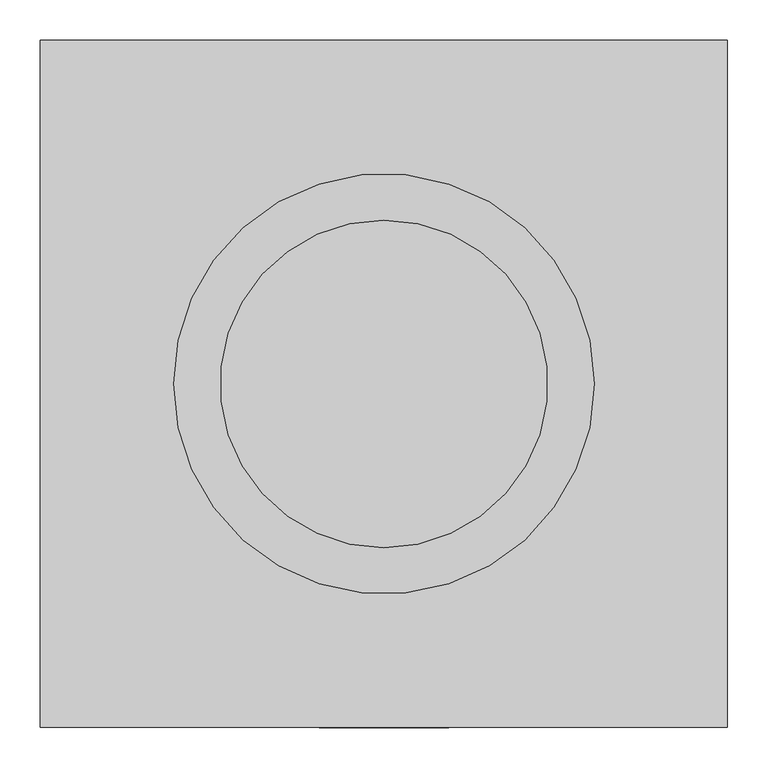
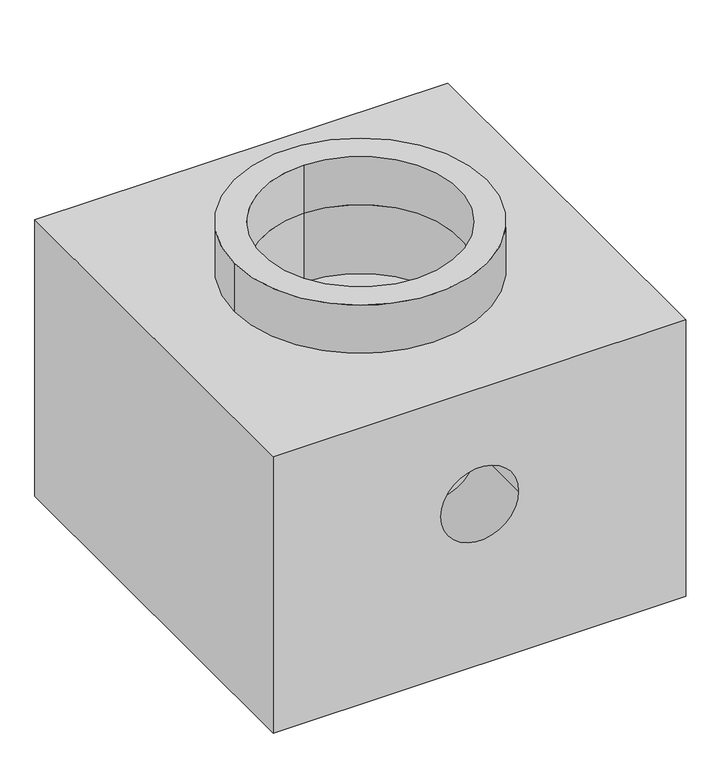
"""IFC4 building model written with IfcOpenShell, lengths in millimetres: valve geometry, Pipelife - Stormbox - Studzienka kontrolna : 160-200-250-315."""

import ifcopenshell
import ifcopenshell.guid

model = None  # the IFC model being written
_history = None  # IfcOwnerHistory: only IFC2X3 demands one
_inside = {}  # id of a spatial element -> (the spatial element, [elements in it])
_under = {}  # id of a project, library or spatial element -> (it, [spatial elements below it])
_declared = {}  # id of a project -> (the project, [libraries it declares])
_typed = {}  # id of a type object -> (the type object, [elements of that type])
_made_of = {}  # id of a material, layer set ... -> (it, [elements and type objects made of it])


def new_model(schema):
    """Start an empty IFC model of exactly this schema.

    Asked for "IFC4X3", IfcOpenShell would pick the latest addendum, in which some entities
    have other attributes; the version numbers below select the first issue.
    IFC2X3 requires an IfcOwnerHistory on every rooted entity: one is made here for all.
    """
    global model, _history
    if schema == "IFC4X3":
        model = ifcopenshell.file(schema_version=(4, 3, 0, 0))
    else:
        model = ifcopenshell.file(schema=schema)
    _inside.clear()
    _under.clear()
    _declared.clear()
    _typed.clear()
    _made_of.clear()
    _history = None
    if model.schema == "IFC2X3":
        org = make("IfcOrganization", Name="unknown")
        user = make(
            "IfcPersonAndOrganization",
            ThePerson=make("IfcPerson", FamilyName="unknown"),
            TheOrganization=org,
        )
        app = make(
            "IfcApplication",
            ApplicationDeveloper=org,
            Version="unknown",
            ApplicationFullName="unknown",
            ApplicationIdentifier="unknown",
        )
        _history = make(
            "IfcOwnerHistory",
            OwningUser=user,
            OwningApplication=app,
            ChangeAction="ADDED",
            CreationDate=0,
        )
    return model


def make(cls, **values):
    """One entity of the class cls with the attributes given. An attribute that is None is left unset."""
    return model.create_entity(
        cls, **{name: value for name, value in values.items() if value is not None}
    )


def rooted(cls, **values):
    """An entity with a GlobalId (a new one), such as an element, a storey or a relation."""
    return make(cls, GlobalId=ifcopenshell.guid.new(), OwnerHistory=_history, **values)


def si_unit(unit_type, name, prefix=None):
    """IfcSIUnit, for example si_unit("LENGTHUNIT", "METRE", prefix="MILLI")."""
    return make("IfcSIUnit", UnitType=unit_type, Prefix=prefix, Name=name)


def assignment(units):
    """IfcUnitAssignment: the units of a project."""
    return None if units is None else make("IfcUnitAssignment", Units=units)


def point(xyz):
    """IfcCartesianPoint."""
    return None if xyz is None else make("IfcCartesianPoint", Coordinates=xyz)


def direction(xyz):
    """IfcDirection."""
    return None if xyz is None else make("IfcDirection", DirectionRatios=xyz)


def frame(location, z_axis=None, x_axis=None):
    """IfcAxis2Placement3D, a coordinate frame: its origin and axes. An axis left out is left unset."""
    return make(
        "IfcAxis2Placement3D",
        Location=point(location),
        Axis=direction(z_axis),
        RefDirection=direction(x_axis),
    )


def frame_2d(location, x_axis=None):
    """IfcAxis2Placement2D, a coordinate frame in the plane: its origin and x axis."""
    return make(
        "IfcAxis2Placement2D", Location=point(location), RefDirection=direction(x_axis)
    )


def origin():
    """The frame at (0, 0, 0) with its axes left unset."""
    return frame((0.0, 0.0, 0.0))


def origin_2d():
    """The frame at (0, 0) in the plane with its x axis left unset."""
    return frame_2d((0.0, 0.0))


def place(relative_to, where):
    """IfcLocalPlacement: puts the frame where relative to a parent placement (None: the world)."""
    return make(
        "IfcLocalPlacement", PlacementRelTo=relative_to, RelativePlacement=where
    )


def context(
    kind, dimensions, precision=None, world=None, true_north=None, identifier=None
):
    """IfcGeometricRepresentationContext, for example the 3D "Model" context."""
    return make(
        "IfcGeometricRepresentationContext",
        ContextIdentifier=identifier,
        ContextType=kind,
        CoordinateSpaceDimension=dimensions,
        Precision=precision,
        WorldCoordinateSystem=world,
        TrueNorth=true_north,
    )


def project(units=None, contexts=None):
    """IfcProject with its units and contexts."""
    return rooted(
        "IfcProject",
        Name="project",
        RepresentationContexts=contexts,
        UnitsInContext=assignment(units),
    )


def spatial(cls, under=None, at=None, **own):
    """A site, building, storey or space (cls), placed at a placement, below another one or the project."""
    s = rooted(cls, ObjectPlacement=at, **own)
    if under is not None:
        _under.setdefault(under.id(), (under, []))[1].append(s)
    return s


def polyline(points):
    """IfcPolyline through the points."""
    return make("IfcPolyline", Points=[point(p) for p in points])


def circle_curve(where, radius):
    """IfcCircle in the frame where."""
    return make("IfcCircle", Position=where, Radius=radius)


def trimmed(basis, trim1, trim2, sense, master):
    """IfcTrimmedCurve: the piece of a basis curve between two trims."""
    return make(
        "IfcTrimmedCurve",
        BasisCurve=basis,
        Trim1=trim1,
        Trim2=trim2,
        SenseAgreement=sense,
        MasterRepresentation=master,
    )


def segment(curve, same_sense, transition):
    """IfcCompositeCurveSegment."""
    return make(
        "IfcCompositeCurveSegment",
        Transition=transition,
        SameSense=same_sense,
        ParentCurve=curve,
    )


def composite_curve(segments, self_intersect=None):
    """IfcCompositeCurve: segments joined end to end."""
    return make("IfcCompositeCurve", Segments=segments, SelfIntersect=self_intersect)


def outline(outer, holes=None, kind="AREA"):
    """IfcArbitraryClosedProfileDef: a profile drawn as a closed curve; with holes, ...WithVoids."""
    if holes is None:
        return make("IfcArbitraryClosedProfileDef", ProfileType=kind, OuterCurve=outer)
    return make(
        "IfcArbitraryProfileDefWithVoids",
        ProfileType=kind,
        OuterCurve=outer,
        InnerCurves=holes,
    )


def extrude(swept, where, along, depth):
    """IfcExtrudedAreaSolid: the profile swept, set in the frame where, extruded along a direction by depth."""
    return make(
        "IfcExtrudedAreaSolid",
        SweptArea=swept,
        Position=where,
        ExtrudedDirection=direction(along),
        Depth=depth,
    )


def shape(context_of_items, identifier, shape_type, items):
    """IfcShapeRepresentation: the items that make up one representation, for example the "Body"."""
    return make(
        "IfcShapeRepresentation",
        ContextOfItems=context_of_items,
        RepresentationIdentifier=identifier,
        RepresentationType=shape_type,
        Items=items,
    )


def source(mapping_origin, context_of_items, identifier, shape_type, items):
    """IfcRepresentationMap: a shape defined once, which mapped items show again and again."""
    return make(
        "IfcRepresentationMap",
        MappingOrigin=mapping_origin,
        MappedRepresentation=shape(context_of_items, identifier, shape_type, items),
    )


def transform(
    local_origin,
    x_axis=None,
    y_axis=None,
    z_axis=None,
    scale=None,
    scale2=None,
    scale3=None,
    uniform=True,
):
    """IfcCartesianTransformationOperator3D, or its non-uniform kind. x_axis, y_axis, z_axis: its Axis1, 2, 3."""
    if uniform:
        return make(
            "IfcCartesianTransformationOperator3D",
            Axis1=direction(x_axis),
            Axis2=direction(y_axis),
            LocalOrigin=point(local_origin),
            Scale=scale,
            Axis3=direction(z_axis),
        )
    return make(
        "IfcCartesianTransformationOperator3DnonUniform",
        Axis1=direction(x_axis),
        Axis2=direction(y_axis),
        LocalOrigin=point(local_origin),
        Scale=scale,
        Axis3=direction(z_axis),
        Scale2=scale2,
        Scale3=scale3,
    )


def mapped(mapping_source, mapping_target):
    """IfcMappedItem: shows the shape of a source again, moved by a transform."""
    return make(
        "IfcMappedItem", MappingSource=mapping_source, MappingTarget=mapping_target
    )


def made_of(thing, what):
    """Note that an element or type object is made of a material, layer set ...; save() writes the relation."""
    if what is not None:
        _made_of.setdefault(what.id(), (what, []))[1].append(thing)
    return thing


def element(
    cls,
    number,
    at=None,
    inside=None,
    cuts=None,
    type_object=None,
    material=None,
    context=None,
    identifier="Body",
    shape_type=None,
    held_by="IfcProductDefinitionShape",
    body=None,
    shapes=None,
    **own,
):
    """One element of the class cls, such as IfcWall. Its Tag is "e" and its number.

    at: its placement. inside: the storey or other place that contains it. cuts: it is an
    opening in that element (IfcRelVoidsElement). A single representation is given by context,
    identifier, shape_type and body (its items); several are given by shapes. held_by: the class
    of the entity that holds the representations. save() writes the other relations.
    """
    e = rooted(cls, Tag="e%d" % number, ObjectPlacement=at, **own)
    if body is not None:
        shapes = [shape(context, identifier, shape_type, body)]
    if shapes is not None:
        e.Representation = make(held_by, Representations=shapes)
    if inside is not None:
        _inside.setdefault(inside.id(), (inside, []))[1].append(e)
    if cuts is not None:
        rooted(
            "IfcRelVoidsElement", RelatingBuildingElement=cuts, RelatedOpeningElement=e
        )
    if type_object is not None:
        _typed.setdefault(type_object.id(), (type_object, []))[1].append(e)
    return made_of(e, material)


def aggregate(whole, parts):
    """IfcRelAggregates: a whole, such as a stair, and the parts it consists of."""
    return rooted("IfcRelAggregates", RelatingObject=whole, RelatedObjects=parts)


def save(model, path):
    """Write the relations noted so far, then the file.

    IfcRelAggregates (storeys below a building ...), IfcRelContainedInSpatialStructure (elements
    in a storey), IfcRelDefinesByType, IfcRelAssociatesMaterial and IfcRelDeclares: one each for
    every whole, place, type object, material and project.
    """
    for whole, parts in _under.values():
        aggregate(whole, parts)
    for where, things in _inside.values():
        rooted(
            "IfcRelContainedInSpatialStructure",
            RelatedElements=things,
            RelatingStructure=where,
        )
    for kind, things in _typed.values():
        rooted("IfcRelDefinesByType", RelatedObjects=things, RelatingType=kind)
    for what, things in _made_of.values():
        rooted("IfcRelAssociatesMaterial", RelatedObjects=things, RelatingMaterial=what)
    for by, libraries in _declared.values():
        rooted("IfcRelDeclares", RelatingContext=by, RelatedDefinitions=libraries)
    model.write(path)


def plane_surface(at):
    """IfcPlane: the flat surface through the origin of the frame at, square to its z axis."""
    return make("IfcPlane", Position=at)


def revolved_surface(curve, axis_point, axis_direction):
    """IfcSurfaceOfRevolution: the curve turned about the line through axis_point along axis_direction."""
    return make(
        "IfcSurfaceOfRevolution",
        SweptCurve=make("IfcArbitraryOpenProfileDef", ProfileType="CURVE", Curve=curve),
        AxisPosition=make("IfcAxis1Placement", Location=point(axis_point), Axis=direction(axis_direction)),
    )


def advanced_brep(points, edges, surfaces, faces):
    """IfcAdvancedBrep: a solid bounded by faces that lie on surfaces and meet in shared edges.

    An edge is (start, end): straight between two places in points (the first is 0);
    or (start, end, curve); or (start, end, curve, False) where it runs against its curve.
    A face is (place in surfaces, loops), or (place, loops, False) where it looks against
    its surface's normal. A loop lists edges by number (the first is 1), with a minus sign
    where the edge is run from its end to its start. The first loop is the outer one.
    """
    corners = [point(p) for p in points]
    vertices = [make("IfcVertexPoint", VertexGeometry=c) for c in corners]
    made = []
    for start, end, *more in edges:
        made.append(
            make(
                "IfcEdgeCurve",
                EdgeStart=vertices[start],
                EdgeEnd=vertices[end],
                EdgeGeometry=more[0] if more else make("IfcPolyline", Points=[corners[start], corners[end]]),
                SameSense=more[1] if len(more) > 1 else True,
            )
        )
    hull = []
    for where, loops, *sense in faces:
        bounds = []
        for j, loop in enumerate(loops):
            ring = [make("IfcOrientedEdge", EdgeElement=made[abs(k) - 1], Orientation=k > 0) for k in loop]
            bounds.append(
                make(
                    "IfcFaceOuterBound" if j == 0 else "IfcFaceBound",
                    Bound=make("IfcEdgeLoop", EdgeList=ring),
                    Orientation=True,
                )
            )
        hull.append(make("IfcAdvancedFace", Bounds=bounds, FaceSurface=surfaces[where], SameSense=sense[0] if sense else True))
    return make("IfcAdvancedBrep", Outer=make("IfcClosedShell", CfsFaces=hull))


def valve_efa6191e(model_context):
    return source(origin(), model_context, "Body", "SolidModel", [
        advanced_brep(
        [(425.0, 425.0, 602.0), (-425.0, 425.0, 602.0), (-425.0, -425.0, 602.0), (425.0, -425.0, 602.0), (0.0, -202.5, 602.0), (0.0, 202.5, 602.0), (425.0, 425.0, 0.0), (425.0, -425.0, 0.0), (-425.0, -425.0, 0.0), (-425.0, 425.0, 0.0), (-80.0, -425.0, 350.0), (80.0, -425.0, 350.0), (0.0, 202.5, 452.0), (0.0, -202.5, 452.0), (-80.0, -275.0, 350.0), (80.0, -275.0, 350.0)],
        [
            (0, 1),
            (1, 2),
            (2, 3),
            (3, 0),
            (4, 5, circle_curve(frame((0.0, 0.0, 602.0), z_axis=(0.0, 0.0, -1.0), x_axis=(0.0, -1.0, 0.0)), 202.5)),
            (5, 4, circle_curve(frame((0.0, 0.0, 602.0), z_axis=(0.0, 0.0, -1.0), x_axis=(0.0, -1.0, 0.0)), 202.5)),
            (6, 7),
            (7, 8),
            (8, 9),
            (9, 6),
            (0, 6),
            (9, 1),
            (8, 2),
            (7, 3),
            (10, 11, circle_curve(frame((0.0, -425.0, 350.0), z_axis=(0.0, 1.0, 0.0), x_axis=(1.0, 0.0, 0.0)), 80.0)),
            (11, 10, circle_curve(frame((0.0, -425.0, 350.0), z_axis=(0.0, 1.0, 0.0), x_axis=(1.0, 0.0, 0.0)), 80.0)),
            (12, 13, circle_curve(frame((0.0, 0.0, 452.0), z_axis=(0.0, 0.0, 1.0), x_axis=(0.0, -1.0, 0.0)), 202.5)),
            (13, 12, circle_curve(frame((0.0, 0.0, 452.0), z_axis=(0.0, 0.0, 1.0), x_axis=(0.0, -1.0, 0.0)), 202.5)),
            (12, 5),
            (4, 13),
            (14, 15, circle_curve(frame((0.0, -275.0, 350.0), z_axis=(0.0, -1.0, 0.0), x_axis=(1.0, 0.0, 0.0)), 80.0)),
            (15, 14, circle_curve(frame((0.0, -275.0, 350.0), z_axis=(0.0, -1.0, 0.0), x_axis=(1.0, 0.0, 0.0)), 80.0)),
            (15, 11),
            (10, 14),
        ],
        [
            plane_surface(frame((-425.0, 425.0, 602.0), z_axis=(0.0, 0.0, 1.0), x_axis=(-1.0, 0.0, 0.0))),
            plane_surface(frame((-425.0, 425.0, 0.0), z_axis=(0.0, 0.0, -1.0), x_axis=(1.0, 0.0, 0.0))),
            plane_surface(frame((425.0, 425.0, 602.0), z_axis=(0.0, 1.0, 0.0), x_axis=(0.0, 0.0, -1.0))),
            plane_surface(frame((-425.0, 425.0, 602.0), z_axis=(-1.0, 0.0, 0.0), x_axis=(0.0, 0.0, -1.0))),
            plane_surface(frame((-425.0, -425.0, 602.0), z_axis=(0.0, -1.0, 0.0), x_axis=(0.0, 0.0, -1.0))),
            plane_surface(frame((425.0, -425.0, 602.0), z_axis=(1.0, 0.0, 0.0), x_axis=(0.0, 0.0, -1.0))),
            plane_surface(frame((0.0, 0.0, 452.0), z_axis=(0.0, 0.0, 1.0), x_axis=(0.0, -1.0, 0.0))),
            revolved_surface(polyline([(0.0, -202.5, 602.0), (0.0, -202.5, 452.0)]), (0.0, 0.0, 707.0), (0.0, 0.0, 1.0)),
            plane_surface(frame((0.0, -275.0, 350.0), z_axis=(0.0, -1.0, 0.0), x_axis=(0.0, 0.0, 1.0))),
            revolved_surface(polyline([(80.0, -275.0, 350.0), (80.0, -425.0, 350.0)]), (0.0, -275.0, 350.0), (0.0, 1.0, 0.0)),
        ],
        [
            (0, [[1, 2, 3, 4], [5, 6]]),
            (1, [[7, 8, 9, 10]]),
            (2, [[-1, 11, -10, 12]]),
            (3, [[-2, -12, -9, 13]]),
            (4, [[-3, -13, -8, 14], [15, 16]]),
            (5, [[-4, -14, -7, -11]]),
            (6, [[17, 18]]),
            (7, [[-17, 19, -5, 20]]),
            (7, [[-18, -20, -6, -19]]),
            (8, [[21, 22]]),
            (9, [[-22, 23, -15, 24]]),
            (9, [[-21, -24, -16, -23]]),
        ],
    ),
        extrude(outline(composite_curve([segment(trimmed(circle_curve(origin_2d(), 260.0), [point((260.0, 0.0))], [point((-260.0, 0.0))], False, "CARTESIAN"), True, "CONTINUOUS"), segment(trimmed(circle_curve(origin_2d(), 260.0), [point((-260.0, 0.0))], [point((260.0, 0.0))], False, "CARTESIAN"), True, "CONTINUOUS")], self_intersect=False), holes=[composite_curve([segment(trimmed(circle_curve(origin_2d(), 202.5), [point((0.0, 202.5))], [point((0.0, -202.5))], True, "CARTESIAN"), True, "CONTINUOUS"), segment(trimmed(circle_curve(origin_2d(), 202.5), [point((0.0, -202.5))], [point((0.0, 202.5))], True, "CARTESIAN"), True, "CONTINUOUS")], self_intersect=False)]), frame((0.0, 0.0, 602.0), z_axis=(0.0, 0.0, 1.0), x_axis=(1.0, 0.0, 0.0)), (0.0, 0.0, 1.0), 105.0),
    ])


if __name__ == "__main__":
    model = new_model("IFC4")
    model_context = context("Model", 3, world=origin())
    ifc_project = project(units=[si_unit("LENGTHUNIT", "METRE", prefix="MILLI")], contexts=[model_context])
    site = spatial("IfcSite", under=ifc_project)
    building = spatial("IfcBuilding", under=site)
    placement = place(None, origin())
    valve_shape = valve_efa6191e(model_context)
    element("IfcValve", 1, ObjectType="Pipelife - Stormbox - Studzienka kontrolna : 160-200-250-315", at=placement, inside=building, context=model_context, shape_type="MappedRepresentation", body=[
        mapped(valve_shape, transform((0.0, 0.0, 0.0), x_axis=(1.0, 0.0, 0.0), y_axis=(0.0, 1.0, 0.0), z_axis=(0.0, 0.0, 1.0))),
    ])
    save(model, "model.ifc")
